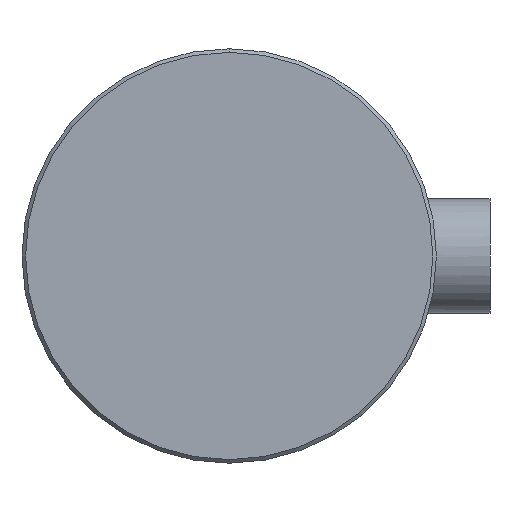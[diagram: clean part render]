
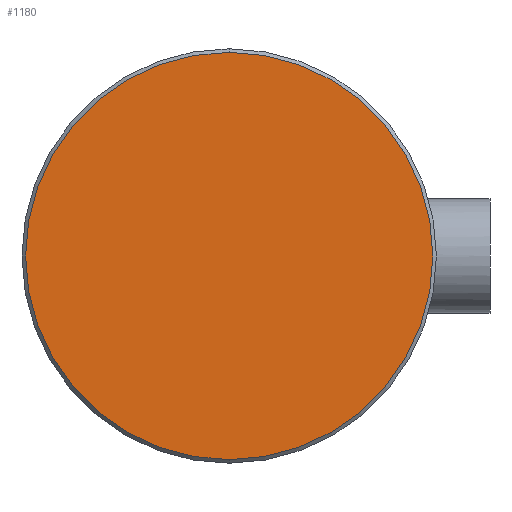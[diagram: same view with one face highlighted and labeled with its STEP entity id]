
A CAD part, left-side view. The second image highlights one B-rep face of the part: STEP entity #1180.
In plain terms, the highlighted planar face has unit normal (-1, 0, 0).
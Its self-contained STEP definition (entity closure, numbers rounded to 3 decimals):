
#54 = CIRCLE ( 'NONE', #148, 28.5 ) ;
#108 = VERTEX_POINT ( 'NONE', #1667 ) ;
#141 = EDGE_LOOP ( 'NONE', ( #1404, #663 ) ) ;
#148 = AXIS2_PLACEMENT_3D ( 'NONE', #1499, #567, #707 ) ;
#202 = CIRCLE ( 'NONE', #1418, 28.5 ) ;
#493 = VERTEX_POINT ( 'NONE', #1200 ) ;
#495 = DIRECTION ( 'NONE',  ( -1., 0., 0. ) ) ;
#567 = DIRECTION ( 'NONE',  ( 1., 0., 0. ) ) ;
#622 = PLANE ( 'NONE',  #1624 ) ;
#663 = ORIENTED_EDGE ( 'NONE', *, *, #1085, .F. ) ;
#707 = DIRECTION ( 'NONE',  ( 0., 0., -1. ) ) ;
#769 = FACE_OUTER_BOUND ( 'NONE', #141, .T. ) ;
#779 = CARTESIAN_POINT ( 'NONE',  ( 7.093, 124.697, 0. ) ) ;
#920 = DIRECTION ( 'NONE',  ( 1., 0., 0. ) ) ;
#1085 = EDGE_CURVE ( 'NONE', #108, #493, #54, .T. ) ;
#1159 = DIRECTION ( 'NONE',  ( 0., 0., 1. ) ) ;
#1180 = ADVANCED_FACE ( 'NONE', ( #769 ), #622, .T. ) ;
#1181 = EDGE_CURVE ( 'NONE', #493, #108, #202, .T. ) ;
#1200 = CARTESIAN_POINT ( 'NONE',  ( 7.093, 124.697, -28.5 ) ) ;
#1304 = DIRECTION ( 'NONE',  ( 0., 0., -1. ) ) ;
#1404 = ORIENTED_EDGE ( 'NONE', *, *, #1181, .F. ) ;
#1418 = AXIS2_PLACEMENT_3D ( 'NONE', #1543, #920, #1304 ) ;
#1499 = CARTESIAN_POINT ( 'NONE',  ( 7.093, 124.697, 0. ) ) ;
#1543 = CARTESIAN_POINT ( 'NONE',  ( 7.093, 124.697, 0. ) ) ;
#1624 = AXIS2_PLACEMENT_3D ( 'NONE', #779, #495, #1159 ) ;
#1667 = CARTESIAN_POINT ( 'NONE',  ( 7.093, 124.697, 28.5 ) ) ;
